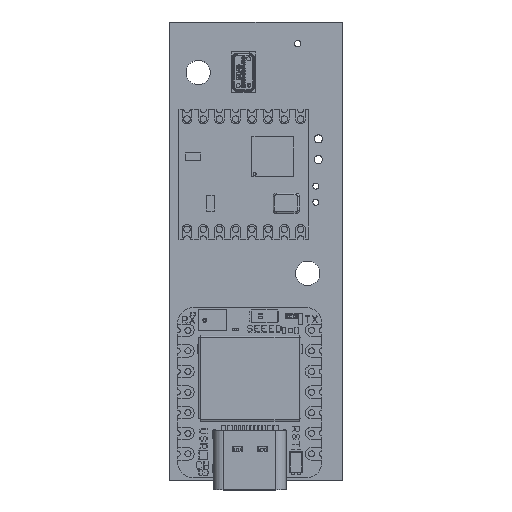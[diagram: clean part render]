
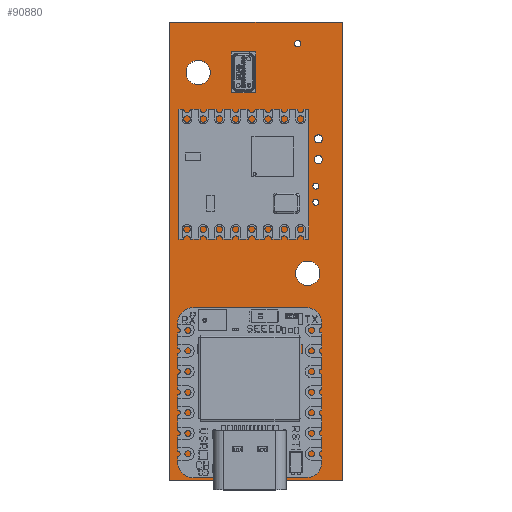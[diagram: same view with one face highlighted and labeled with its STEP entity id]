
A CAD part, top view. The second image highlights one B-rep face of the part: STEP entity #90880.
In plain terms, the highlighted planar face has unit normal (0, 0, 1).
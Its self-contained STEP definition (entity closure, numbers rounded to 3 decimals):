
#90691 = VERTEX_POINT('',#90692);
#90692 = CARTESIAN_POINT('',(166.82,-127.82,1.51));
#90698 = EDGE_CURVE('',#90691,#90699,#90701,.T.);
#90699 = VERTEX_POINT('',#90700);
#90700 = CARTESIAN_POINT('',(145.57,-127.82,1.51));
#90701 = LINE('',#90702,#90703);
#90702 = CARTESIAN_POINT('',(166.82,-127.82,1.51));
#90703 = VECTOR('',#90704,1.);
#90704 = DIRECTION('',(-1.,0.,0.));
#90731 = VERTEX_POINT('',#90732);
#90732 = CARTESIAN_POINT('',(166.82,-71.32,1.51));
#90738 = EDGE_CURVE('',#90731,#90691,#90739,.T.);
#90739 = LINE('',#90740,#90741);
#90740 = CARTESIAN_POINT('',(166.82,-71.32,1.51));
#90741 = VECTOR('',#90742,1.);
#90742 = DIRECTION('',(0.,-1.,0.));
#90760 = EDGE_CURVE('',#90699,#90761,#90763,.T.);
#90761 = VERTEX_POINT('',#90762);
#90762 = CARTESIAN_POINT('',(145.57,-71.32,1.51));
#90763 = LINE('',#90764,#90765);
#90764 = CARTESIAN_POINT('',(145.57,-127.82,1.51));
#90765 = VECTOR('',#90766,1.);
#90766 = DIRECTION('',(0.,1.,0.));
#90880 = ADVANCED_FACE('',(#90881,#90892,#90903,#90914,#90925,#90936,
    #90947,#90958),#90969,.T.);
#90881 = FACE_BOUND('',#90882,.T.);
#90882 = EDGE_LOOP('',(#90883,#90884,#90885,#90891));
#90883 = ORIENTED_EDGE('',*,*,#90698,.F.);
#90884 = ORIENTED_EDGE('',*,*,#90738,.F.);
#90885 = ORIENTED_EDGE('',*,*,#90886,.F.);
#90886 = EDGE_CURVE('',#90761,#90731,#90887,.T.);
#90887 = LINE('',#90888,#90889);
#90888 = CARTESIAN_POINT('',(145.57,-71.32,1.51));
#90889 = VECTOR('',#90890,1.);
#90890 = DIRECTION('',(1.,0.,0.));
#90891 = ORIENTED_EDGE('',*,*,#90760,.F.);
#90892 = FACE_BOUND('',#90893,.T.);
#90893 = EDGE_LOOP('',(#90894));
#90894 = ORIENTED_EDGE('',*,*,#90895,.T.);
#90895 = EDGE_CURVE('',#90896,#90896,#90898,.T.);
#90896 = VERTEX_POINT('',#90897);
#90897 = CARTESIAN_POINT('',(162.57,-103.82,1.51));
#90898 = CIRCLE('',#90899,1.5);
#90899 = AXIS2_PLACEMENT_3D('',#90900,#90901,#90902);
#90900 = CARTESIAN_POINT('',(162.57,-102.32,1.51));
#90901 = DIRECTION('',(-0.,0.,-1.));
#90902 = DIRECTION('',(-0.,-1.,0.));
#90903 = FACE_BOUND('',#90904,.T.);
#90904 = EDGE_LOOP('',(#90905));
#90905 = ORIENTED_EDGE('',*,*,#90906,.T.);
#90906 = EDGE_CURVE('',#90907,#90907,#90909,.T.);
#90907 = VERTEX_POINT('',#90908);
#90908 = CARTESIAN_POINT('',(163.58,-93.933,1.51));
#90909 = CIRCLE('',#90910,0.375);
#90910 = AXIS2_PLACEMENT_3D('',#90911,#90912,#90913);
#90911 = CARTESIAN_POINT('',(163.58,-93.558,1.51));
#90912 = DIRECTION('',(-0.,0.,-1.));
#90913 = DIRECTION('',(-0.,-1.,0.));
#90914 = FACE_BOUND('',#90915,.T.);
#90915 = EDGE_LOOP('',(#90916));
#90916 = ORIENTED_EDGE('',*,*,#90917,.T.);
#90917 = EDGE_CURVE('',#90918,#90918,#90920,.T.);
#90918 = VERTEX_POINT('',#90919);
#90919 = CARTESIAN_POINT('',(163.58,-91.933,1.51));
#90920 = CIRCLE('',#90921,0.375);
#90921 = AXIS2_PLACEMENT_3D('',#90922,#90923,#90924);
#90922 = CARTESIAN_POINT('',(163.58,-91.558,1.51));
#90923 = DIRECTION('',(-0.,0.,-1.));
#90924 = DIRECTION('',(-0.,-1.,0.));
#90925 = FACE_BOUND('',#90926,.T.);
#90926 = EDGE_LOOP('',(#90927));
#90927 = ORIENTED_EDGE('',*,*,#90928,.T.);
#90928 = EDGE_CURVE('',#90929,#90929,#90931,.T.);
#90929 = VERTEX_POINT('',#90930);
#90930 = CARTESIAN_POINT('',(149.07,-79.05,1.51));
#90931 = CIRCLE('',#90932,1.5);
#90932 = AXIS2_PLACEMENT_3D('',#90933,#90934,#90935);
#90933 = CARTESIAN_POINT('',(149.07,-77.55,1.51));
#90934 = DIRECTION('',(-0.,0.,-1.));
#90935 = DIRECTION('',(-0.,-1.,0.));
#90936 = FACE_BOUND('',#90937,.T.);
#90937 = EDGE_LOOP('',(#90938));
#90938 = ORIENTED_EDGE('',*,*,#90939,.T.);
#90939 = EDGE_CURVE('',#90940,#90940,#90942,.T.);
#90940 = VERTEX_POINT('',#90941);
#90941 = CARTESIAN_POINT('',(163.9,-88.778,1.51));
#90942 = CIRCLE('',#90943,0.5);
#90943 = AXIS2_PLACEMENT_3D('',#90944,#90945,#90946);
#90944 = CARTESIAN_POINT('',(163.9,-88.278,1.51));
#90945 = DIRECTION('',(-0.,0.,-1.));
#90946 = DIRECTION('',(-0.,-1.,0.));
#90947 = FACE_BOUND('',#90948,.T.);
#90948 = EDGE_LOOP('',(#90949));
#90949 = ORIENTED_EDGE('',*,*,#90950,.T.);
#90950 = EDGE_CURVE('',#90951,#90951,#90953,.T.);
#90951 = VERTEX_POINT('',#90952);
#90952 = CARTESIAN_POINT('',(163.9,-86.238,1.51));
#90953 = CIRCLE('',#90954,0.5);
#90954 = AXIS2_PLACEMENT_3D('',#90955,#90956,#90957);
#90955 = CARTESIAN_POINT('',(163.9,-85.738,1.51));
#90956 = DIRECTION('',(-0.,0.,-1.));
#90957 = DIRECTION('',(-0.,-1.,0.));
#90958 = FACE_BOUND('',#90959,.T.);
#90959 = EDGE_LOOP('',(#90960));
#90960 = ORIENTED_EDGE('',*,*,#90961,.T.);
#90961 = EDGE_CURVE('',#90962,#90962,#90964,.T.);
#90962 = VERTEX_POINT('',#90963);
#90963 = CARTESIAN_POINT('',(161.33,-74.388,1.51));
#90964 = CIRCLE('',#90965,0.4);
#90965 = AXIS2_PLACEMENT_3D('',#90966,#90967,#90968);
#90966 = CARTESIAN_POINT('',(161.33,-73.988,1.51));
#90967 = DIRECTION('',(-0.,0.,-1.));
#90968 = DIRECTION('',(0.,-1.,-0.));
#90969 = PLANE('',#90970);
#90970 = AXIS2_PLACEMENT_3D('',#90971,#90972,#90973);
#90971 = CARTESIAN_POINT('',(0.,0.,1.51));
#90972 = DIRECTION('',(0.,0.,1.));
#90973 = DIRECTION('',(1.,0.,-0.));
